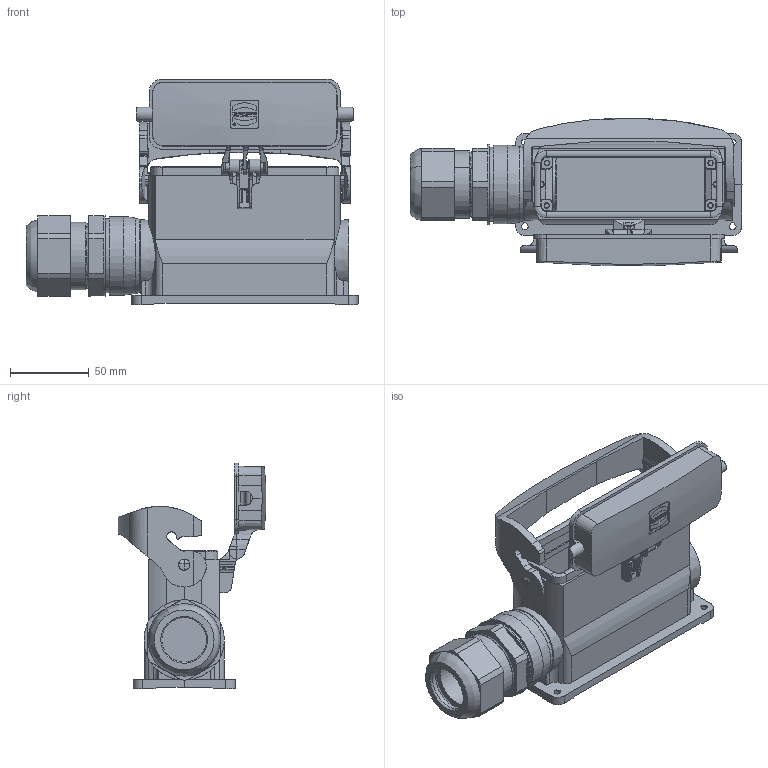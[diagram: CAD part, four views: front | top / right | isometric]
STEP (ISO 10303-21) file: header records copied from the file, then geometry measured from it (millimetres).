
FILE_DESCRIPTION(/* description */ (''),/* implementation_level */ '2;1');
FILE_NAME(/* name */ '100751922ugm000_c.stp',/* time_stamp */ '2022-03-12T06:12:53+01:00',/* author */ (''),/* organization */ (''),/* preprocessor_version */ 'ST-DEVELOPER v16.7',/* originating_system */ 'SIEMENS PLM Software NX 1911',/* authorisation */ '');
FILE_SCHEMA (('AUTOMOTIVE_DESIGN { 1 0 10303 214 3 1 1 1 }'));
Length unit declared in the file: millimetre
Products named in the file (1): 100751922ugm000_c
Bounding box: 210.95 x 93.88 x 143.5 mm (x, y, z)
Volume: 63984.5 mm3; surface area: 138830.5 mm2
Topology: 2 solids, 556 shells, 909 faces, 3999 edges, 3636 vertices
Faces by surface type: plane 579, cylinder 206, cone 70, bspline 33, revolution 10, extrusion 7, torus 4
Full cylindrical faces by diameter (mm): 1.006 x1, 1.477 x1, 3 x4, 3.5 x4, 4.8 x2, 7.2 x2, 30 x1, 40 x1, 46.4 x1, 47 x1, 49.95 x1
Entity records: 55130 total; most frequent: CARTESIAN_POINT 12776, DIRECTION 6414, ORIENTED_EDGE 4934, EDGE_CURVE 3957, VERTEX_POINT 3622, VECTOR 2538, LINE 2531, AXIS2_PLACEMENT_3D 1933
